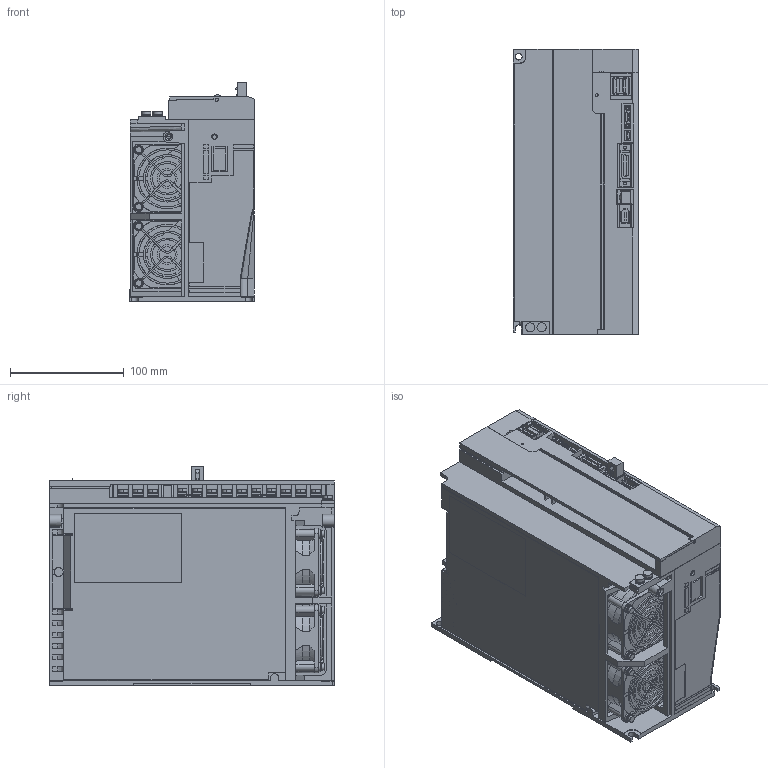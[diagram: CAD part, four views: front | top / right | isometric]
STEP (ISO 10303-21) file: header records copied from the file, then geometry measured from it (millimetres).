
FILE_DESCRIPTION (( 'STEP AP203' ), '1' );
FILE_NAME ('sgdv_8r4d1_a.STEP', '2008-06-17T08:35:12', ( 'T' ), ( 'T' ), 'SwSTEP 2.0', 'SolidWorks 2006052', '' );
FILE_SCHEMA (( 'CONFIG_CONTROL_DESIGN' ));
Products named in the file (7): sgdv_8r4d1_a_cover; sgdv_8r4d1_a; sgdv_8r4d1_a_base; sgdv_8r4d1_a_cover2; sgdv_8r4d1_a_connector; sgdv_8r4d1_a_cover3; sgdv_8r4d1_a_terminal
Assembly tree (8 placements, depth 2):
  sgdv_8r4d1_a
    sgdv_8r4d1_a_cover
    sgdv_8r4d1_a_cover2  x2
    sgdv_8r4d1_a_cover3
    sgdv_8r4d1_a_terminal  x2
    sgdv_8r4d1_a_connector
    sgdv_8r4d1_a_base
Bounding box: 110.5 x 250 x 193 mm (x, y, z)
Volume: 4320825.7 mm3; surface area: 306038.9 mm2
Topology: 8 solids, 12 shells, 2411 faces, 6623 edges, 4367 vertices
Faces by surface type: plane 1953, cylinder 430, cone 24, bspline 3, sphere 1
Entity records: 75468 total; most frequent: CARTESIAN_POINT 13395, ORIENTED_EDGE 13006, DIRECTION 12257, EDGE_CURVE 6503, VECTOR 5419, LINE 5419, VERTEX_POINT 4287, AXIS2_PLACEMENT_3D 3419
